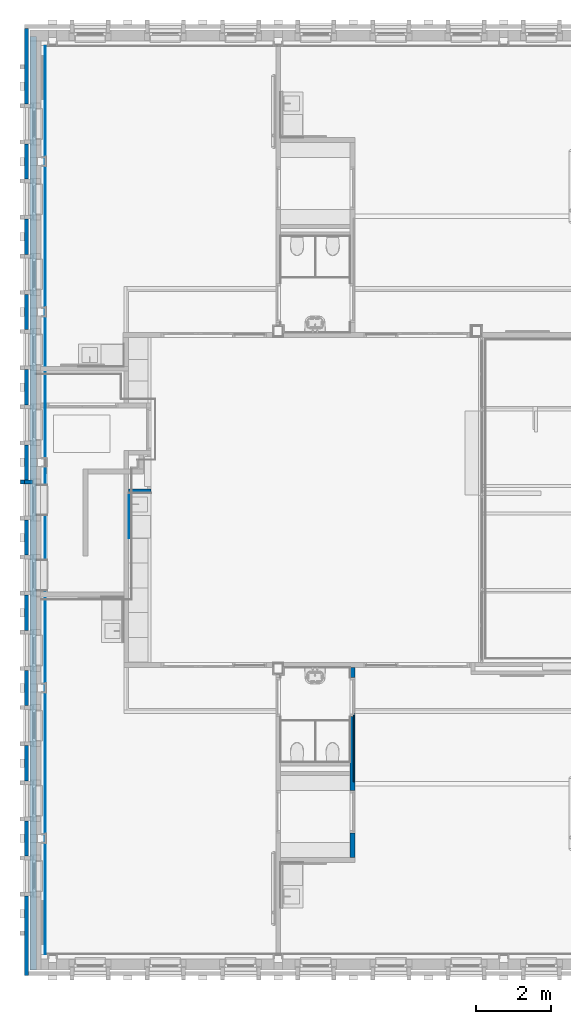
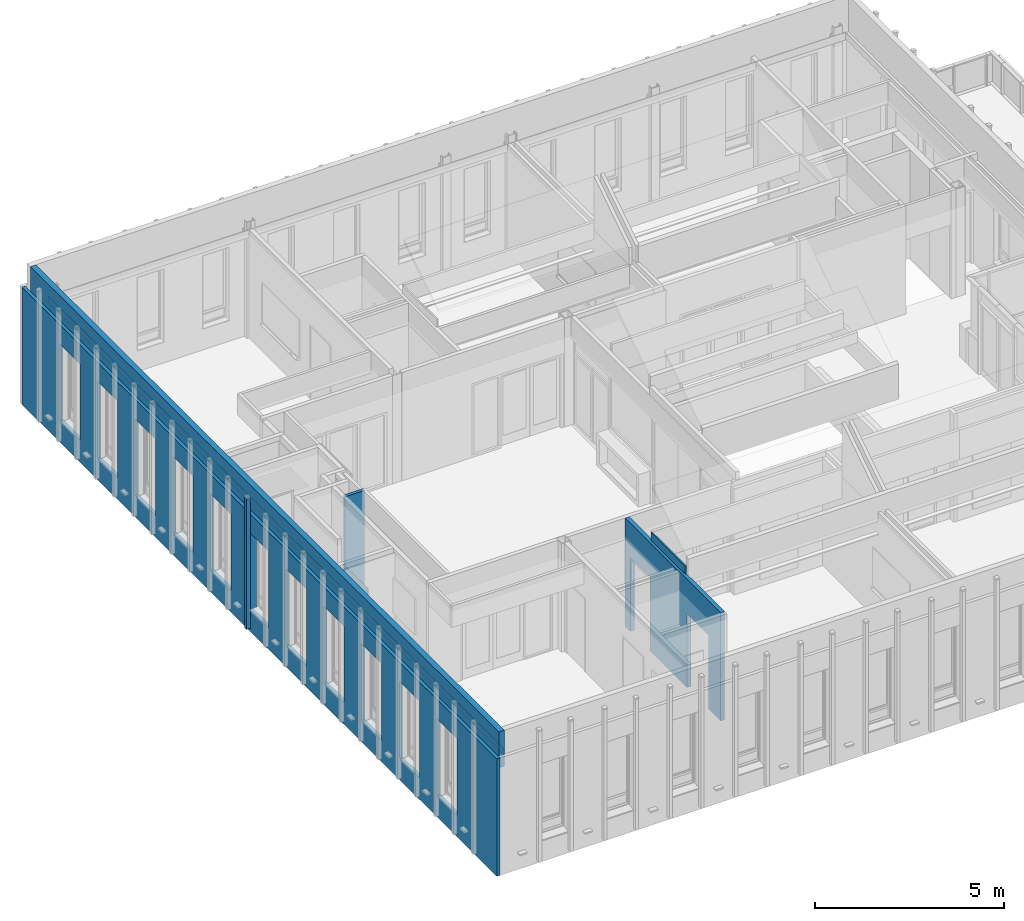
# One storey, part 36 of 118: 9 walls, 13 openings.
"""IFC2X3 building model written with IfcOpenShell, lengths in millimetres."""

import ifcopenshell
import ifcopenshell.guid

model = None  # the IFC model being written
_history = None  # IfcOwnerHistory: only IFC2X3 demands one
_inside = {}  # id of a spatial element -> (the spatial element, [elements in it])
_under = {}  # id of a project, library or spatial element -> (it, [spatial elements below it])
_declared = {}  # id of a project -> (the project, [libraries it declares])
_typed = {}  # id of a type object -> (the type object, [elements of that type])
_made_of = {}  # id of a material, layer set ... -> (it, [elements and type objects made of it])


def new_model(schema):
    """Start an empty IFC model of exactly this schema.

    Asked for "IFC4X3", IfcOpenShell would pick the latest addendum, in which some entities
    have other attributes; the version numbers below select the first issue.
    IFC2X3 requires an IfcOwnerHistory on every rooted entity: one is made here for all.
    """
    global model, _history
    if schema == "IFC4X3":
        model = ifcopenshell.file(schema_version=(4, 3, 0, 0))
    else:
        model = ifcopenshell.file(schema=schema)
    _inside.clear()
    _under.clear()
    _declared.clear()
    _typed.clear()
    _made_of.clear()
    _history = None
    if model.schema == "IFC2X3":
        org = make("IfcOrganization", Name="unknown")
        user = make(
            "IfcPersonAndOrganization",
            ThePerson=make("IfcPerson", FamilyName="unknown"),
            TheOrganization=org,
        )
        app = make(
            "IfcApplication",
            ApplicationDeveloper=org,
            Version="unknown",
            ApplicationFullName="unknown",
            ApplicationIdentifier="unknown",
        )
        _history = make(
            "IfcOwnerHistory",
            OwningUser=user,
            OwningApplication=app,
            ChangeAction="ADDED",
            CreationDate=0,
        )
    return model


def make(cls, **values):
    """One entity of the class cls with the attributes given. An attribute that is None is left unset."""
    return model.create_entity(
        cls, **{name: value for name, value in values.items() if value is not None}
    )


def entity(cls, *values):
    """Any entity or typed value of the class cls, its attributes in the order of the schema. None: left unset."""
    e = model.create_entity(cls)
    for i, value in enumerate(values):
        if value is not None:
            e[i] = value
    return e


def rooted(cls, **values):
    """An entity with a GlobalId (a new one), such as an element, a storey or a relation."""
    return make(cls, GlobalId=ifcopenshell.guid.new(), OwnerHistory=_history, **values)


def si_unit(unit_type, name, prefix=None):
    """IfcSIUnit, for example si_unit("LENGTHUNIT", "METRE", prefix="MILLI")."""
    return make("IfcSIUnit", UnitType=unit_type, Prefix=prefix, Name=name)


def converted_unit(unit_type, name, factor, base, dimensions=None, offset=None):
    """IfcConversionBasedUnit, such as the inch: factor (a typed value) times the base unit."""
    return make(
        "IfcConversionBasedUnit"
        if offset is None
        else "IfcConversionBasedUnitWithOffset",
        ConversionOffset=offset,
        Dimensions=None
        if dimensions is None
        else entity("IfcDimensionalExponents", *dimensions),
        UnitType=unit_type,
        Name=name,
        ConversionFactor=make(
            "IfcMeasureWithUnit", ValueComponent=factor, UnitComponent=base
        ),
    )


def derived_unit(unit_type, elements):
    """IfcDerivedUnit: a product of units, each with its exponent."""
    return make(
        "IfcDerivedUnit",
        Elements=[
            make("IfcDerivedUnitElement", Unit=unit, Exponent=power)
            for unit, power in elements
        ],
        UnitType=unit_type,
    )


def assignment(units):
    """IfcUnitAssignment: the units of a project."""
    return None if units is None else make("IfcUnitAssignment", Units=units)


def point(xyz):
    """IfcCartesianPoint."""
    return None if xyz is None else make("IfcCartesianPoint", Coordinates=xyz)


def direction(xyz):
    """IfcDirection."""
    return None if xyz is None else make("IfcDirection", DirectionRatios=xyz)


def frame(location, z_axis=None, x_axis=None):
    """IfcAxis2Placement3D, a coordinate frame: its origin and axes. An axis left out is left unset."""
    return make(
        "IfcAxis2Placement3D",
        Location=point(location),
        Axis=direction(z_axis),
        RefDirection=direction(x_axis),
    )


def frame_2d(location, x_axis=None):
    """IfcAxis2Placement2D, a coordinate frame in the plane: its origin and x axis."""
    return make(
        "IfcAxis2Placement2D", Location=point(location), RefDirection=direction(x_axis)
    )


def origin():
    """The frame at (0, 0, 0) with its axes left unset."""
    return frame((0.0, 0.0, 0.0))


def place(relative_to, where):
    """IfcLocalPlacement: puts the frame where relative to a parent placement (None: the world)."""
    return make(
        "IfcLocalPlacement", PlacementRelTo=relative_to, RelativePlacement=where
    )


def context(
    kind, dimensions, precision=None, world=None, true_north=None, identifier=None
):
    """IfcGeometricRepresentationContext, for example the 3D "Model" context."""
    return make(
        "IfcGeometricRepresentationContext",
        ContextIdentifier=identifier,
        ContextType=kind,
        CoordinateSpaceDimension=dimensions,
        Precision=precision,
        WorldCoordinateSystem=world,
        TrueNorth=true_north,
    )


def subcontext(parent, identifier, kind, view, scale=None):
    """IfcGeometricRepresentationSubContext, for example "Body" below "Model"."""
    return make(
        "IfcGeometricRepresentationSubContext",
        ContextIdentifier=identifier,
        ContextType=kind,
        ParentContext=parent,
        TargetScale=scale,
        TargetView=view,
    )


def project(units=None, contexts=None):
    """IfcProject with its units and contexts."""
    return rooted(
        "IfcProject",
        Name="project",
        RepresentationContexts=contexts,
        UnitsInContext=assignment(units),
    )


def spatial(cls, under=None, at=None, **own):
    """A site, building, storey or space (cls), placed at a placement, below another one or the project."""
    s = rooted(cls, ObjectPlacement=at, **own)
    if under is not None:
        _under.setdefault(under.id(), (under, []))[1].append(s)
    return s


def profile(cls, at=None, kind="AREA", **sizes):
    """A parametric profile (cls). Its sizes go by their IFC names, for example OverallWidth=200.0."""
    return make(cls, ProfileType=kind, Position=at, **sizes)


def rectangle(**sizes):
    """IfcRectangleProfileDef."""
    return profile("IfcRectangleProfileDef", **sizes)


def extrude(swept, where, along, depth):
    """IfcExtrudedAreaSolid: the profile swept, set in the frame where, extruded along a direction by depth."""
    return make(
        "IfcExtrudedAreaSolid",
        SweptArea=swept,
        Position=where,
        ExtrudedDirection=direction(along),
        Depth=depth,
    )


def faces_of(points, faces, orient=None, outer=None):
    """IfcFace entities. A face is a list of loops; a loop is a list of indices into points, from 0.

    orient and outer hold one flag for each loop. By default every Orientation is true, the
    first loop of a face is its IfcFaceOuterBound and the others are IfcFaceBound.
    """
    made = []
    for i, loops in enumerate(faces):
        bounds = []
        for j, loop in enumerate(loops):
            is_outer = j == 0 if outer is None else outer[i][j]
            bounds.append(
                make(
                    "IfcFaceOuterBound" if is_outer else "IfcFaceBound",
                    Bound=make("IfcPolyLoop", Polygon=[points[k] for k in loop]),
                    Orientation=True if orient is None else orient[i][j],
                )
            )
        made.append(make("IfcFace", Bounds=bounds))
    return made


def faceted_brep(points, faces, orient=None, outer=None, voids=None):
    """IfcFacetedBrep: a solid bounded by flat faces; with voids (closed shells), ...WithVoids."""
    shared = [point(p) for p in points]
    hull = make("IfcClosedShell", CfsFaces=faces_of(shared, faces, orient, outer))
    if voids is None:
        return make("IfcFacetedBrep", Outer=hull)
    return make(
        "IfcFacetedBrepWithVoids",
        Outer=hull,
        Voids=[
            make(cls, CfsFaces=faces_of(shared, fs, o, b)) for cls, fs, o, b in voids
        ],
    )


def shape(context_of_items, identifier, shape_type, items):
    """IfcShapeRepresentation: the items that make up one representation, for example the "Body"."""
    return make(
        "IfcShapeRepresentation",
        ContextOfItems=context_of_items,
        RepresentationIdentifier=identifier,
        RepresentationType=shape_type,
        Items=items,
    )


def material(Name=None, Category=None):
    """IfcMaterial."""
    return make("IfcMaterial", Name=Name, Category=Category)


def layer(
    of_material, thickness, ventilated=None, Name=None, Category=None, Priority=None
):
    """IfcMaterialLayer: one layer of a wall or slab, of a material (None: an air gap)."""
    return make(
        "IfcMaterialLayer",
        Material=of_material,
        LayerThickness=thickness,
        IsVentilated=ventilated,
        Name=Name,
        Category=Category,
        Priority=Priority,
    )


def layer_set(layers, Name=None):
    """IfcMaterialLayerSet."""
    return make("IfcMaterialLayerSet", MaterialLayers=layers, LayerSetName=Name)


def layer_usage(for_layer_set, set_direction, sense, offset, extent=None):
    """IfcMaterialLayerSetUsage: how a layer set lies in its element."""
    return make(
        "IfcMaterialLayerSetUsage",
        ForLayerSet=for_layer_set,
        LayerSetDirection=set_direction,
        DirectionSense=sense,
        OffsetFromReferenceLine=offset,
        ReferenceExtent=extent,
    )


def made_of(thing, what):
    """Note that an element or type object is made of a material, layer set ...; save() writes the relation."""
    if what is not None:
        _made_of.setdefault(what.id(), (what, []))[1].append(thing)
    return thing


def type_object(cls, material=None, **own):
    """A type object (cls), such as IfcWallType, which elements share."""
    return made_of(rooted(cls, **own), material)


def element(
    cls,
    number,
    at=None,
    inside=None,
    cuts=None,
    type_object=None,
    material=None,
    context=None,
    identifier="Body",
    shape_type=None,
    held_by="IfcProductDefinitionShape",
    body=None,
    shapes=None,
    **own,
):
    """One element of the class cls, such as IfcWall. Its Tag is "e" and its number.

    at: its placement. inside: the storey or other place that contains it. cuts: it is an
    opening in that element (IfcRelVoidsElement). A single representation is given by context,
    identifier, shape_type and body (its items); several are given by shapes. held_by: the class
    of the entity that holds the representations. save() writes the other relations.
    """
    e = rooted(cls, Tag="e%d" % number, ObjectPlacement=at, **own)
    if body is not None:
        shapes = [shape(context, identifier, shape_type, body)]
    if shapes is not None:
        e.Representation = make(held_by, Representations=shapes)
    if inside is not None:
        _inside.setdefault(inside.id(), (inside, []))[1].append(e)
    if cuts is not None:
        rooted(
            "IfcRelVoidsElement", RelatingBuildingElement=cuts, RelatedOpeningElement=e
        )
    if type_object is not None:
        _typed.setdefault(type_object.id(), (type_object, []))[1].append(e)
    return made_of(e, material)


def aggregate(whole, parts):
    """IfcRelAggregates: a whole, such as a stair, and the parts it consists of."""
    return rooted("IfcRelAggregates", RelatingObject=whole, RelatedObjects=parts)


def save(model, path):
    """Write the relations noted so far, then the file.

    IfcRelAggregates (storeys below a building ...), IfcRelContainedInSpatialStructure (elements
    in a storey), IfcRelDefinesByType, IfcRelAssociatesMaterial and IfcRelDeclares: one each for
    every whole, place, type object, material and project.
    """
    for whole, parts in _under.values():
        aggregate(whole, parts)
    for where, things in _inside.values():
        rooted(
            "IfcRelContainedInSpatialStructure",
            RelatedElements=things,
            RelatingStructure=where,
        )
    for kind, things in _typed.values():
        rooted("IfcRelDefinesByType", RelatedObjects=things, RelatingType=kind)
    for what, things in _made_of.values():
        rooted("IfcRelAssociatesMaterial", RelatedObjects=things, RelatingMaterial=what)
    for by, libraries in _declared.values():
        rooted("IfcRelDeclares", RelatingContext=by, RelatedDefinitions=libraries)
    model.write(path)


model = new_model("IFC2X3")

# Units and contexts
model_context = context("Model", 3, precision=0.01, world=origin(), true_north=direction((6.123031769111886e-17, 1.0)))
plan_context = context("Plan", 3, precision=0.01, world=origin(), true_north=direction((6.123031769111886e-17, 1.0)))
body_context = subcontext(model_context, "Body", "Model", "MODEL_VIEW")
ifc_project = project(units=[si_unit("LENGTHUNIT", "METRE", prefix="MILLI"), si_unit("AREAUNIT", "SQUARE_METRE"), si_unit("VOLUMEUNIT", "CUBIC_METRE"), converted_unit("PLANEANGLEUNIT", "DEGREE", entity("IfcRatioMeasure", 0.017453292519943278), si_unit("PLANEANGLEUNIT", "RADIAN"), dimensions=[0, 0, 0, 0, 0, 0, 0]), si_unit("MASSUNIT", "GRAM", prefix="KILO"), derived_unit("MASSDENSITYUNIT", [(si_unit("MASSUNIT", "GRAM", prefix="KILO"), 1), (si_unit("LENGTHUNIT", "METRE"), -3)]), derived_unit("IONCONCENTRATIONUNIT", [(si_unit("MASSUNIT", "GRAM", prefix="KILO"), 1), (si_unit("LENGTHUNIT", "METRE"), -3)]), derived_unit("MOMENTOFINERTIAUNIT", [(si_unit("LENGTHUNIT", "METRE"), 4)]), si_unit("TIMEUNIT", "SECOND"), si_unit("FREQUENCYUNIT", "HERTZ"), si_unit("THERMODYNAMICTEMPERATUREUNIT", "DEGREE_CELSIUS"), derived_unit("THERMALTRANSMITTANCEUNIT", [(si_unit("MASSUNIT", "GRAM", prefix="KILO"), 1), (si_unit("THERMODYNAMICTEMPERATUREUNIT", "KELVIN"), -1), (si_unit("TIMEUNIT", "SECOND"), -3)]), derived_unit("THERMALCONDUCTANCEUNIT", [(si_unit("MASSUNIT", "GRAM", prefix="KILO"), 1), (si_unit("THERMODYNAMICTEMPERATUREUNIT", "KELVIN"), -1), (si_unit("TIMEUNIT", "SECOND"), -3), (si_unit("LENGTHUNIT", "METRE"), 1)]), derived_unit("VOLUMETRICFLOWRATEUNIT", [(si_unit("LENGTHUNIT", "METRE"), 3), (si_unit("TIMEUNIT", "SECOND"), -1)]), derived_unit("MASSFLOWRATEUNIT", [(si_unit("MASSUNIT", "GRAM", prefix="KILO"), 1), (si_unit("TIMEUNIT", "SECOND"), -1)]), derived_unit("ROTATIONALFREQUENCYUNIT", [(si_unit("TIMEUNIT", "SECOND"), -1)]), si_unit("ELECTRICCURRENTUNIT", "AMPERE"), si_unit("ELECTRICVOLTAGEUNIT", "VOLT"), si_unit("POWERUNIT", "WATT"), si_unit("FORCEUNIT", "NEWTON", prefix="KILO"), si_unit("ILLUMINANCEUNIT", "LUX"), si_unit("LUMINOUSFLUXUNIT", "LUMEN"), si_unit("LUMINOUSINTENSITYUNIT", "CANDELA"), derived_unit("USERDEFINED", [(si_unit("MASSUNIT", "GRAM", prefix="KILO"), -1), (si_unit("LENGTHUNIT", "METRE"), -2), (si_unit("TIMEUNIT", "SECOND"), 3), (si_unit("LUMINOUSFLUXUNIT", "LUMEN"), 1)]), derived_unit("USERDEFINED", [(si_unit("MASSUNIT", "GRAM", prefix="KILO"), 1), (si_unit("TIMEUNIT", "SECOND"), -3), (si_unit("LENGTHUNIT", "METRE"), 3), (si_unit("ELECTRICCURRENTUNIT", "AMPERE"), -2)]), derived_unit("SOUNDPOWERUNIT", [(si_unit("MASSUNIT", "GRAM", prefix="KILO"), 1), (si_unit("TIMEUNIT", "SECOND"), -3), (si_unit("LENGTHUNIT", "METRE"), 2)]), derived_unit("SOUNDPRESSUREUNIT", [(si_unit("MASSUNIT", "GRAM", prefix="KILO"), 1), (si_unit("LENGTHUNIT", "METRE"), -1), (si_unit("TIMEUNIT", "SECOND"), -2)]), derived_unit("LINEARVELOCITYUNIT", [(si_unit("LENGTHUNIT", "METRE"), 1), (si_unit("TIMEUNIT", "SECOND"), -1)]), si_unit("PRESSUREUNIT", "PASCAL"), derived_unit("USERDEFINED", [(si_unit("MASSUNIT", "GRAM", prefix="KILO"), 1), (si_unit("LENGTHUNIT", "METRE"), -2), (si_unit("TIMEUNIT", "SECOND"), -2)]), derived_unit("LINEARFORCEUNIT", [(si_unit("MASSUNIT", "GRAM", prefix="KILO"), 1), (si_unit("TIMEUNIT", "SECOND"), -2)]), derived_unit("PLANARFORCEUNIT", [(si_unit("MASSUNIT", "GRAM", prefix="KILO"), 1), (si_unit("LENGTHUNIT", "METRE"), -1), (si_unit("TIMEUNIT", "SECOND"), -2)]), derived_unit("SPECIFICHEATCAPACITYUNIT", [(si_unit("THERMODYNAMICTEMPERATUREUNIT", "KELVIN"), -1), (si_unit("LENGTHUNIT", "METRE"), 2), (si_unit("TIMEUNIT", "SECOND"), -2)]), derived_unit("HEATINGVALUEUNIT", [(si_unit("LENGTHUNIT", "METRE"), 2), (si_unit("TIMEUNIT", "SECOND"), -2)]), derived_unit("VAPORPERMEABILITYUNIT", [(si_unit("LENGTHUNIT", "METRE"), -1), (si_unit("TIMEUNIT", "SECOND"), 1)]), derived_unit("DYNAMICVISCOSITYUNIT", [(si_unit("MASSUNIT", "GRAM", prefix="KILO"), 1), (si_unit("TIMEUNIT", "SECOND"), -1), (si_unit("LENGTHUNIT", "METRE"), -1)]), derived_unit("THERMALEXPANSIONCOEFFICIENTUNIT", [(si_unit("THERMODYNAMICTEMPERATUREUNIT", "KELVIN"), -1)]), derived_unit("MODULUSOFELASTICITYUNIT", [(si_unit("MASSUNIT", "GRAM", prefix="KILO"), 1), (si_unit("LENGTHUNIT", "METRE"), -1), (si_unit("TIMEUNIT", "SECOND"), -2)]), derived_unit("ISOTHERMALMOISTURECAPACITYUNIT", [(si_unit("LENGTHUNIT", "METRE"), 3), (si_unit("MASSUNIT", "GRAM", prefix="KILO"), -1)]), derived_unit("MOISTUREDIFFUSIVITYUNIT", [(si_unit("TIMEUNIT", "SECOND"), -1), (si_unit("LENGTHUNIT", "METRE"), 2)])], contexts=[model_context, plan_context])

# Site, building, storey
site_placement = place(None, origin())
site = spatial("IfcSite", under=ifc_project, at=site_placement, Name="Locatie", CompositionType="ELEMENT")
building_placement = place(site_placement, origin())
building = spatial("IfcBuilding", under=site, at=building_placement, Name="Bouwwerk", CompositionType="ELEMENT")
storey_placement = place(building_placement, frame((0.0, 0.0, 7800.0)))
storey = spatial("IfcBuildingStorey", under=building, at=storey_placement, Name="02 tweede verdieping", CompositionType="ELEMENT", Elevation=7800.000000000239)

# Wall, openings
ifc_material_1 = material(Name="g2_metselwerk_geel licht")
ifc_layer_1 = layer(ifc_material_1, 100.0)
ifc_layer_set_1 = layer_set([ifc_layer_1], Name="Basic Wall:21_WA_metselwerk_licht_100_gen_bdg")
ifc_layer_usage_1 = layer_usage(ifc_layer_set_1, "AXIS2", "NEGATIVE", 50.0)
wall_type_1 = type_object("IfcWallType", Name="Basic Wall:21_WA_metselwerk_licht_100_gen_bdg", PredefinedType="STANDARD", material=ifc_layer_set_1)
wall_1_placement = place(storey_placement, frame((9610.0, 9560.0, -100.0), z_axis=(0.0, 0.0, 1.0), x_axis=(0.0, 1.0, 0.0)))
wall_1 = element("IfcWallStandardCase", 1, at=wall_1_placement, inside=storey, type_object=wall_type_1, material=ifc_layer_usage_1, Name="Basic Wall:21_WA_metselwerk_licht_100_gen_bdg", ObjectType="Basic Wall:21_WA_metselwerk_licht_100_gen_bdg", context=body_context, shape_type="SweptSolid", body=[
    extrude(rectangle(XDim=25179.999999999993, YDim=100.0000000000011, at=frame_2d((12589.999999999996, 0.0), x_axis=(-1.0, 0.0))), origin(), (0.0, 0.0, 1.0), 3800.000000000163),
])
opening_1_placement = place(wall_1_placement, frame((14084.0, 50.0, 703.0)))
element("IfcOpeningElement", 2, at=opening_1_placement, cuts=wall_1, Name="Basic Wall:21_WA_metselwerk_licht_100_gen_bdg", ObjectType="Opening", context=body_context, shape_type="Brep", body=[
    faceted_brep([(1088.0, -100.0, 2472.0), (1009.0, -100.0, 2472.0), (1009.0, -100.0, 42.0), (103.0, -100.0, 42.0), (103.0, -100.0, 2472.0), (24.0, -100.0, 2472.0), (24.0, -100.0, 0.0), (1088.0, -100.0, 0.0), (24.0, 0.0, 2472.0), (1088.0, 0.0, 2472.0), (1088.0, 0.0, 0.0), (24.0, 0.0, 0.0), (0.0, -415.0, 2594.0), (0.0, -415.0, 11.0), (1112.0, -415.0, 11.0), (1112.0, -415.0, 2594.0), (148.0, -415.0, 2443.0), (964.0, -415.0, 2443.0), (964.0, -415.0, 87.0), (148.0, -415.0, 87.0), (0.0, -140.0, 2594.0), (1112.0, -140.0, 2594.0), (1112.0, -140.0, 11.0), (0.0, -140.0, 11.0), (103.0, -140.0, 42.0), (1009.0, -140.0, 42.0), (1009.0, -140.0, 2508.0), (103.0, -140.0, 2508.0), (1009.0, -100.0, 2508.0), (103.0, -100.0, 2508.0), (148.0, -615.0, 2443.0), (148.0, -615.0, 87.0), (964.0, -615.0, 87.0), (964.0, -615.0, 2443.0)], [[[0, 1, 2, 3, 4, 5, 6, 7]], [[8, 9, 10, 11]], [[5, 8, 11, 6]], [[6, 11, 10, 7]], [[7, 10, 9, 0]], [[8, 5, 4, 1, 0, 9]], [[12, 13, 14, 15], [16, 17, 18, 19]], [[20, 21, 22, 23], [24, 25, 26, 27]], [[12, 20, 23, 13]], [[13, 23, 22, 14]], [[14, 22, 21, 15]], [[15, 21, 20, 12]], [[28, 1, 4, 29]], [[24, 27, 29, 4, 3]], [[3, 2, 25, 24]], [[2, 1, 28, 26, 25]], [[29, 27, 26, 28]], [[30, 31, 32, 33]], [[30, 16, 19, 31]], [[31, 19, 18, 32]], [[32, 18, 17, 33]], [[33, 17, 16, 30]]]),
])
opening_2_placement = place(wall_1_placement, frame((2084.0, 50.0, 703.0)))
element("IfcOpeningElement", 3, at=opening_2_placement, cuts=wall_1, Name="Basic Wall:21_WA_metselwerk_licht_100_gen_bdg", ObjectType="Opening", context=body_context, shape_type="Brep", body=[
    faceted_brep([(1088.0, -100.0, 2472.0), (1009.0, -100.0, 2472.0), (1009.0, -100.0, 42.0), (103.0, -100.0, 42.0), (103.0, -100.0, 2472.0), (24.0, -100.0, 2472.0), (24.0, -100.0, 0.0), (1088.0, -100.0, 0.0), (24.0, 0.0, 2472.0), (1088.0, 0.0, 2472.0), (1088.0, 0.0, 0.0), (24.0, 0.0, 0.0), (0.0, -415.0, 2594.0), (0.0, -415.0, 11.0), (1112.0, -415.0, 11.0), (1112.0, -415.0, 2594.0), (148.0, -415.0, 2443.0), (964.0, -415.0, 2443.0), (964.0, -415.0, 87.0), (148.0, -415.0, 87.0), (0.0, -140.0, 2594.0), (1112.0, -140.0, 2594.0), (1112.0, -140.0, 11.0), (0.0, -140.0, 11.0), (103.0, -140.0, 42.0), (1009.0, -140.0, 42.0), (1009.0, -140.0, 2508.0), (103.0, -140.0, 2508.0), (1009.0, -100.0, 2508.0), (103.0, -100.0, 2508.0), (148.0, -615.0, 2443.0), (148.0, -615.0, 87.0), (964.0, -615.0, 87.0), (964.0, -615.0, 2443.0)], [[[0, 1, 2, 3, 4, 5, 6, 7]], [[8, 9, 10, 11]], [[5, 8, 11, 6]], [[6, 11, 10, 7]], [[7, 10, 9, 0]], [[8, 5, 4, 1, 0, 9]], [[12, 13, 14, 15], [16, 17, 18, 19]], [[20, 21, 22, 23], [24, 25, 26, 27]], [[12, 20, 23, 13]], [[13, 23, 22, 14]], [[14, 22, 21, 15]], [[15, 21, 20, 12]], [[28, 1, 4, 29]], [[24, 27, 29, 4, 3]], [[3, 2, 25, 24]], [[2, 1, 28, 26, 25]], [[29, 27, 26, 28]], [[30, 31, 32, 33]], [[30, 16, 19, 31]], [[31, 19, 18, 32]], [[32, 18, 17, 33]], [[33, 17, 16, 30]]]),
])
opening_3_placement = place(wall_1_placement, frame((4084.0, 50.0, 703.0)))
element("IfcOpeningElement", 4, at=opening_3_placement, cuts=wall_1, Name="Basic Wall:21_WA_metselwerk_licht_100_gen_bdg", ObjectType="Opening", context=body_context, shape_type="Brep", body=[
    faceted_brep([(1088.0, -100.0, 2472.0), (1009.0, -100.0, 2472.0), (1009.0, -100.0, 42.0), (103.0, -100.0, 42.0), (103.0, -100.0, 2472.0), (24.0, -100.0, 2472.0), (24.0, -100.0, 0.0), (1088.0, -100.0, 0.0), (24.0, 0.0, 2472.0), (1088.0, 0.0, 2472.0), (1088.0, 0.0, 0.0), (24.0, 0.0, 0.0), (0.0, -415.0, 2594.0), (0.0, -415.0, 11.0), (1112.0, -415.0, 11.0), (1112.0, -415.0, 2594.0), (148.0, -415.0, 2443.0), (964.0, -415.0, 2443.0), (964.0, -415.0, 87.0), (148.0, -415.0, 87.0), (0.0, -140.0, 2594.0), (1112.0, -140.0, 2594.0), (1112.0, -140.0, 11.0), (0.0, -140.0, 11.0), (103.0, -140.0, 42.0), (1009.0, -140.0, 42.0), (1009.0, -140.0, 2508.0), (103.0, -140.0, 2508.0), (1009.0, -100.0, 2508.0), (103.0, -100.0, 2508.0), (148.0, -615.0, 2443.0), (148.0, -615.0, 87.0), (964.0, -615.0, 87.0), (964.0, -615.0, 2443.0)], [[[0, 1, 2, 3, 4, 5, 6, 7]], [[8, 9, 10, 11]], [[5, 8, 11, 6]], [[6, 11, 10, 7]], [[7, 10, 9, 0]], [[8, 5, 4, 1, 0, 9]], [[12, 13, 14, 15], [16, 17, 18, 19]], [[20, 21, 22, 23], [24, 25, 26, 27]], [[12, 20, 23, 13]], [[13, 23, 22, 14]], [[14, 22, 21, 15]], [[15, 21, 20, 12]], [[28, 1, 4, 29]], [[24, 27, 29, 4, 3]], [[3, 2, 25, 24]], [[2, 1, 28, 26, 25]], [[29, 27, 26, 28]], [[30, 31, 32, 33]], [[30, 16, 19, 31]], [[31, 19, 18, 32]], [[32, 18, 17, 33]], [[33, 17, 16, 30]]]),
])
opening_4_placement = place(wall_1_placement, frame((6084.0, 50.0, 703.0)))
element("IfcOpeningElement", 5, at=opening_4_placement, cuts=wall_1, Name="Basic Wall:21_WA_metselwerk_licht_100_gen_bdg", ObjectType="Opening", context=body_context, shape_type="Brep", body=[
    faceted_brep([(1088.0, -100.0, 2472.0), (1009.0, -100.0, 2472.0), (1009.0, -100.0, 42.0), (103.0, -100.0, 42.0), (103.0, -100.0, 2472.0), (24.0, -100.0, 2472.0), (24.0, -100.0, 0.0), (1088.0, -100.0, 0.0), (24.0, 0.0, 2472.0), (1088.0, 0.0, 2472.0), (1088.0, 0.0, 0.0), (24.0, 0.0, 0.0), (0.0, -415.0, 2594.0), (0.0, -415.0, 11.0), (1112.0, -415.0, 11.0), (1112.0, -415.0, 2594.0), (148.0, -415.0, 2443.0), (964.0, -415.0, 2443.0), (964.0, -415.0, 87.0), (148.0, -415.0, 87.0), (0.0, -140.0, 2594.0), (1112.0, -140.0, 2594.0), (1112.0, -140.0, 11.0), (0.0, -140.0, 11.0), (103.0, -140.0, 42.0), (1009.0, -140.0, 42.0), (1009.0, -140.0, 2508.0), (103.0, -140.0, 2508.0), (1009.0, -100.0, 2508.0), (103.0, -100.0, 2508.0), (148.0, -615.0, 2443.0), (148.0, -615.0, 87.0), (964.0, -615.0, 87.0), (964.0, -615.0, 2443.0)], [[[0, 1, 2, 3, 4, 5, 6, 7]], [[8, 9, 10, 11]], [[5, 8, 11, 6]], [[6, 11, 10, 7]], [[7, 10, 9, 0]], [[8, 5, 4, 1, 0, 9]], [[12, 13, 14, 15], [16, 17, 18, 19]], [[20, 21, 22, 23], [24, 25, 26, 27]], [[12, 20, 23, 13]], [[13, 23, 22, 14]], [[14, 22, 21, 15]], [[15, 21, 20, 12]], [[28, 1, 4, 29]], [[24, 27, 29, 4, 3]], [[3, 2, 25, 24]], [[2, 1, 28, 26, 25]], [[29, 27, 26, 28]], [[30, 31, 32, 33]], [[30, 16, 19, 31]], [[31, 19, 18, 32]], [[32, 18, 17, 33]], [[33, 17, 16, 30]]]),
])
opening_5_placement = place(wall_1_placement, frame((8084.0, 50.0, 703.0)))
element("IfcOpeningElement", 6, at=opening_5_placement, cuts=wall_1, Name="Basic Wall:21_WA_metselwerk_licht_100_gen_bdg", ObjectType="Opening", context=body_context, shape_type="Brep", body=[
    faceted_brep([(1088.0, -100.0, 2472.0), (1009.0, -100.0, 2472.0), (1009.0, -100.0, 42.0), (103.0, -100.0, 42.0), (103.0, -100.0, 2472.0), (24.0, -100.0, 2472.0), (24.0, -100.0, 0.0), (1088.0, -100.0, 0.0), (24.0, 0.0, 2472.0), (1088.0, 0.0, 2472.0), (1088.0, 0.0, 0.0), (24.0, 0.0, 0.0), (0.0, -415.0, 2594.0), (0.0, -415.0, 11.0), (1112.0, -415.0, 11.0), (1112.0, -415.0, 2594.0), (148.0, -415.0, 2443.0), (964.0, -415.0, 2443.0), (964.0, -415.0, 87.0), (148.0, -415.0, 87.0), (0.0, -140.0, 2594.0), (1112.0, -140.0, 2594.0), (1112.0, -140.0, 11.0), (0.0, -140.0, 11.0), (103.0, -140.0, 42.0), (1009.0, -140.0, 42.0), (1009.0, -140.0, 2508.0), (103.0, -140.0, 2508.0), (1009.0, -100.0, 2508.0), (103.0, -100.0, 2508.0), (148.0, -615.0, 2443.0), (148.0, -615.0, 87.0), (964.0, -615.0, 87.0), (964.0, -615.0, 2443.0)], [[[0, 1, 2, 3, 4, 5, 6, 7]], [[8, 9, 10, 11]], [[5, 8, 11, 6]], [[6, 11, 10, 7]], [[7, 10, 9, 0]], [[8, 5, 4, 1, 0, 9]], [[12, 13, 14, 15], [16, 17, 18, 19]], [[20, 21, 22, 23], [24, 25, 26, 27]], [[12, 20, 23, 13]], [[13, 23, 22, 14]], [[14, 22, 21, 15]], [[15, 21, 20, 12]], [[28, 1, 4, 29]], [[24, 27, 29, 4, 3]], [[3, 2, 25, 24]], [[2, 1, 28, 26, 25]], [[29, 27, 26, 28]], [[30, 31, 32, 33]], [[30, 16, 19, 31]], [[31, 19, 18, 32]], [[32, 18, 17, 33]], [[33, 17, 16, 30]]]),
])
opening_6_placement = place(wall_1_placement, frame((10084.0, 50.0, 703.0)))
element("IfcOpeningElement", 7, at=opening_6_placement, cuts=wall_1, Name="Basic Wall:21_WA_metselwerk_licht_100_gen_bdg", ObjectType="Opening", context=body_context, shape_type="Brep", body=[
    faceted_brep([(24.0, -100.0, 0.0), (24.0, 0.0, 0.0), (1088.0, 0.0, 0.0), (1088.0, -100.0, 0.0), (0.0, -415.0, 11.0), (0.0, -140.0, 11.0), (1112.0, -140.0, 11.0), (1112.0, -415.0, 11.0), (103.0, -100.0, 42.0), (1009.0, -100.0, 42.0), (1009.0, -140.0, 42.0), (103.0, -140.0, 42.0), (1088.0, -100.0, 2472.0), (1009.0, -100.0, 2472.0), (103.0, -100.0, 2472.0), (24.0, -100.0, 2472.0), (24.0, 0.0, 2472.0), (1088.0, 0.0, 2472.0), (0.0, -415.0, 2594.0), (1112.0, -415.0, 2594.0), (148.0, -415.0, 2443.0), (964.0, -415.0, 2443.0), (964.0, -415.0, 87.0), (148.0, -415.0, 87.0), (0.0, -140.0, 2594.0), (1112.0, -140.0, 2594.0), (1009.0, -140.0, 2508.0), (103.0, -140.0, 2508.0), (1009.0, -100.0, 2508.0), (103.0, -100.0, 2508.0), (148.0, -615.0, 2443.0), (148.0, -615.0, 87.0), (964.0, -615.0, 87.0), (964.0, -615.0, 2443.0)], [[[0, 1, 2, 3]], [[4, 5, 6, 7]], [[8, 9, 10, 11]], [[12, 13, 9, 8, 14, 15, 0, 3]], [[16, 17, 2, 1]], [[15, 16, 1, 0]], [[3, 2, 17, 12]], [[16, 15, 14, 13, 12, 17]], [[18, 4, 7, 19], [20, 21, 22, 23]], [[24, 25, 6, 5], [11, 10, 26, 27]], [[18, 24, 5, 4]], [[7, 6, 25, 19]], [[19, 25, 24, 18]], [[28, 13, 14, 29]], [[11, 27, 29, 14, 8]], [[9, 13, 28, 26, 10]], [[29, 27, 26, 28]], [[30, 31, 32, 33]], [[30, 20, 23, 31]], [[31, 23, 22, 32]], [[32, 22, 21, 33]], [[33, 21, 20, 30]]]),
])
opening_7_placement = place(wall_1_placement, frame((12084.0, 50.0, 703.0)))
element("IfcOpeningElement", 8, at=opening_7_placement, cuts=wall_1, Name="Basic Wall:21_WA_metselwerk_licht_100_gen_bdg", ObjectType="Opening", context=body_context, shape_type="Brep", body=[
    faceted_brep([(24.0, -100.0, 0.0), (24.0, 0.0, 0.0), (1088.0, 0.0, 0.0), (1088.0, -100.0, 0.0), (0.0, -415.0, 11.0), (0.0, -140.0, 11.0), (1112.0, -140.0, 11.0), (1112.0, -415.0, 11.0), (103.0, -100.0, 42.0), (1009.0, -100.0, 42.0), (1009.0, -140.0, 42.0), (103.0, -140.0, 42.0), (1088.0, -100.0, 2472.0), (1009.0, -100.0, 2472.0), (103.0, -100.0, 2472.0), (24.0, -100.0, 2472.0), (24.0, 0.0, 2472.0), (1088.0, 0.0, 2472.0), (0.0, -415.0, 2594.0), (1112.0, -415.0, 2594.0), (148.0, -415.0, 2443.0), (964.0, -415.0, 2443.0), (964.0, -415.0, 87.0), (148.0, -415.0, 87.0), (0.0, -140.0, 2594.0), (1112.0, -140.0, 2594.0), (1009.0, -140.0, 2508.0), (103.0, -140.0, 2508.0), (1009.0, -100.0, 2508.0), (103.0, -100.0, 2508.0), (148.0, -615.0, 2443.0), (148.0, -615.0, 87.0), (964.0, -615.0, 87.0), (964.0, -615.0, 2443.0)], [[[0, 1, 2, 3]], [[4, 5, 6, 7]], [[8, 9, 10, 11]], [[12, 13, 9, 8, 14, 15, 0, 3]], [[16, 17, 2, 1]], [[15, 16, 1, 0]], [[3, 2, 17, 12]], [[16, 15, 14, 13, 12, 17]], [[18, 4, 7, 19], [20, 21, 22, 23]], [[24, 25, 6, 5], [11, 10, 26, 27]], [[18, 24, 5, 4]], [[7, 6, 25, 19]], [[19, 25, 24, 18]], [[28, 13, 14, 29]], [[11, 27, 29, 14, 8]], [[9, 13, 28, 26, 10]], [[29, 27, 26, 28]], [[30, 31, 32, 33]], [[30, 20, 23, 31]], [[31, 23, 22, 32]], [[32, 22, 21, 33]], [[33, 21, 20, 30]]]),
])
opening_8_placement = place(wall_1_placement, frame((16084.0, 50.0, 703.0)))
element("IfcOpeningElement", 9, at=opening_8_placement, cuts=wall_1, Name="Basic Wall:21_WA_metselwerk_licht_100_gen_bdg", ObjectType="Opening", context=body_context, shape_type="Brep", body=[
    faceted_brep([(1088.0, -100.0, 2472.0), (1009.0, -100.0, 2472.0), (1009.0, -100.0, 42.0), (103.0, -100.0, 42.0), (103.0, -100.0, 2472.0), (24.0, -100.0, 2472.0), (24.0, -100.0, 0.0), (1088.0, -100.0, 0.0), (24.0, 0.0, 2472.0), (1088.0, 0.0, 2472.0), (1088.0, 0.0, 0.0), (24.0, 0.0, 0.0), (0.0, -415.0, 2594.0), (0.0, -415.0, 11.0), (1112.0, -415.0, 11.0), (1112.0, -415.0, 2594.0), (148.0, -415.0, 2443.0), (964.0, -415.0, 2443.0), (964.0, -415.0, 87.0), (148.0, -415.0, 87.0), (0.0, -140.0, 2594.0), (1112.0, -140.0, 2594.0), (1112.0, -140.0, 11.0), (0.0, -140.0, 11.0), (103.0, -140.0, 42.0), (1009.0, -140.0, 42.0), (1009.0, -140.0, 2508.0), (103.0, -140.0, 2508.0), (1009.0, -100.0, 2508.0), (103.0, -100.0, 2508.0), (148.0, -615.0, 2443.0), (148.0, -615.0, 87.0), (964.0, -615.0, 87.0), (964.0, -615.0, 2443.0)], [[[0, 1, 2, 3, 4, 5, 6, 7]], [[8, 9, 10, 11]], [[5, 8, 11, 6]], [[6, 11, 10, 7]], [[7, 10, 9, 0]], [[8, 5, 4, 1, 0, 9]], [[12, 13, 14, 15], [16, 17, 18, 19]], [[20, 21, 22, 23], [24, 25, 26, 27]], [[12, 20, 23, 13]], [[13, 23, 22, 14]], [[14, 22, 21, 15]], [[15, 21, 20, 12]], [[28, 1, 4, 29]], [[24, 27, 29, 4, 3]], [[3, 2, 25, 24]], [[2, 1, 28, 26, 25]], [[29, 27, 26, 28]], [[30, 31, 32, 33]], [[30, 16, 19, 31]], [[31, 19, 18, 32]], [[32, 18, 17, 33]], [[33, 17, 16, 30]]]),
])
opening_9_placement = place(wall_1_placement, frame((18084.0, 50.0, 703.0)))
element("IfcOpeningElement", 10, at=opening_9_placement, cuts=wall_1, Name="Basic Wall:21_WA_metselwerk_licht_100_gen_bdg", ObjectType="Opening", context=body_context, shape_type="Brep", body=[
    faceted_brep([(1088.0, -100.0, 2472.0), (1009.0, -100.0, 2472.0), (1009.0, -100.0, 42.0), (103.0, -100.0, 42.0), (103.0, -100.0, 2472.0), (24.0, -100.0, 2472.0), (24.0, -100.0, 0.0), (1088.0, -100.0, 0.0), (24.0, 0.0, 2472.0), (1088.0, 0.0, 2472.0), (1088.0, 0.0, 0.0), (24.0, 0.0, 0.0), (0.0, -415.0, 2594.0), (0.0, -415.0, 11.0), (1112.0, -415.0, 11.0), (1112.0, -415.0, 2594.0), (148.0, -415.0, 2443.0), (964.0, -415.0, 2443.0), (964.0, -415.0, 87.0), (148.0, -415.0, 87.0), (0.0, -140.0, 2594.0), (1112.0, -140.0, 2594.0), (1112.0, -140.0, 11.0), (0.0, -140.0, 11.0), (103.0, -140.0, 42.0), (1009.0, -140.0, 42.0), (1009.0, -140.0, 2508.0), (103.0, -140.0, 2508.0), (1009.0, -100.0, 2508.0), (103.0, -100.0, 2508.0), (148.0, -615.0, 2443.0), (148.0, -615.0, 87.0), (964.0, -615.0, 87.0), (964.0, -615.0, 2443.0)], [[[0, 1, 2, 3, 4, 5, 6, 7]], [[8, 9, 10, 11]], [[5, 8, 11, 6]], [[6, 11, 10, 7]], [[7, 10, 9, 0]], [[8, 5, 4, 1, 0, 9]], [[12, 13, 14, 15], [16, 17, 18, 19]], [[20, 21, 22, 23], [24, 25, 26, 27]], [[12, 20, 23, 13]], [[13, 23, 22, 14]], [[14, 22, 21, 15]], [[15, 21, 20, 12]], [[28, 1, 4, 29]], [[24, 27, 29, 4, 3]], [[3, 2, 25, 24]], [[2, 1, 28, 26, 25]], [[29, 27, 26, 28]], [[30, 31, 32, 33]], [[30, 16, 19, 31]], [[31, 19, 18, 32]], [[32, 18, 17, 33]], [[33, 17, 16, 30]]]),
])
opening_10_placement = place(wall_1_placement, frame((20084.0, 50.0, 703.0)))
element("IfcOpeningElement", 11, at=opening_10_placement, cuts=wall_1, Name="Basic Wall:21_WA_metselwerk_licht_100_gen_bdg", ObjectType="Opening", context=body_context, shape_type="Brep", body=[
    faceted_brep([(1088.0, -100.0, 2472.0), (1009.0, -100.0, 2472.0), (1009.0, -100.0, 42.0), (103.0, -100.0, 42.0), (103.0, -100.0, 2472.0), (24.0, -100.0, 2472.0), (24.0, -100.0, 0.0), (1088.0, -100.0, 0.0), (24.0, 0.0, 2472.0), (1088.0, 0.0, 2472.0), (1088.0, 0.0, 0.0), (24.0, 0.0, 0.0), (0.0, -415.0, 2594.0), (0.0, -415.0, 11.0), (1112.0, -415.0, 11.0), (1112.0, -415.0, 2594.0), (148.0, -415.0, 2443.0), (964.0, -415.0, 2443.0), (964.0, -415.0, 87.0), (148.0, -415.0, 87.0), (0.0, -140.0, 2594.0), (1112.0, -140.0, 2594.0), (1112.0, -140.0, 11.0), (0.0, -140.0, 11.0), (103.0, -140.0, 42.0), (1009.0, -140.0, 42.0), (1009.0, -140.0, 2508.0), (103.0, -140.0, 2508.0), (1009.0, -100.0, 2508.0), (103.0, -100.0, 2508.0), (148.0, -615.0, 2443.0), (148.0, -615.0, 87.0), (964.0, -615.0, 87.0), (964.0, -615.0, 2443.0)], [[[0, 1, 2, 3, 4, 5, 6, 7]], [[8, 9, 10, 11]], [[5, 8, 11, 6]], [[6, 11, 10, 7]], [[7, 10, 9, 0]], [[8, 5, 4, 1, 0, 9]], [[12, 13, 14, 15], [16, 17, 18, 19]], [[20, 21, 22, 23], [24, 25, 26, 27]], [[12, 20, 23, 13]], [[13, 23, 22, 14]], [[14, 22, 21, 15]], [[15, 21, 20, 12]], [[28, 1, 4, 29]], [[24, 27, 29, 4, 3]], [[3, 2, 25, 24]], [[2, 1, 28, 26, 25]], [[29, 27, 26, 28]], [[30, 31, 32, 33]], [[30, 16, 19, 31]], [[31, 19, 18, 32]], [[32, 18, 17, 33]], [[33, 17, 16, 30]]]),
])
opening_11_placement = place(wall_1_placement, frame((22084.0, 50.0, 703.0)))
element("IfcOpeningElement", 12, at=opening_11_placement, cuts=wall_1, Name="Basic Wall:21_WA_metselwerk_licht_100_gen_bdg", ObjectType="Opening", context=body_context, shape_type="Brep", body=[
    faceted_brep([(1088.0, -100.0, 2472.0), (1009.0, -100.0, 2472.0), (1009.0, -100.0, 42.0), (103.0, -100.0, 42.0), (103.0, -100.0, 2472.0), (24.0, -100.0, 2472.0), (24.0, -100.0, 0.0), (1088.0, -100.0, 0.0), (24.0, 0.0, 2472.0), (1088.0, 0.0, 2472.0), (1088.0, 0.0, 0.0), (24.0, 0.0, 0.0), (0.0, -415.0, 2594.0), (0.0, -415.0, 11.0), (1112.0, -415.0, 11.0), (1112.0, -415.0, 2594.0), (148.0, -415.0, 2443.0), (964.0, -415.0, 2443.0), (964.0, -415.0, 87.0), (148.0, -415.0, 87.0), (0.0, -140.0, 2594.0), (1112.0, -140.0, 2594.0), (1112.0, -140.0, 11.0), (0.0, -140.0, 11.0), (103.0, -140.0, 42.0), (1009.0, -140.0, 42.0), (1009.0, -140.0, 2508.0), (103.0, -140.0, 2508.0), (1009.0, -100.0, 2508.0), (103.0, -100.0, 2508.0), (148.0, -615.0, 2443.0), (148.0, -615.0, 87.0), (964.0, -615.0, 87.0), (964.0, -615.0, 2443.0)], [[[0, 1, 2, 3, 4, 5, 6, 7]], [[8, 9, 10, 11]], [[5, 8, 11, 6]], [[6, 11, 10, 7]], [[7, 10, 9, 0]], [[8, 5, 4, 1, 0, 9]], [[12, 13, 14, 15], [16, 17, 18, 19]], [[20, 21, 22, 23], [24, 25, 26, 27]], [[12, 20, 23, 13]], [[13, 23, 22, 14]], [[14, 22, 21, 15]], [[15, 21, 20, 12]], [[28, 1, 4, 29]], [[24, 27, 29, 4, 3]], [[3, 2, 25, 24]], [[2, 1, 28, 26, 25]], [[29, 27, 26, 28]], [[30, 31, 32, 33]], [[30, 16, 19, 31]], [[31, 19, 18, 32]], [[32, 18, 17, 33]], [[33, 17, 16, 30]]]),
])

# Walls
wall_2_placement = place(storey_placement, frame((9770.0, 22682.0, 603.0), z_axis=(0.0, 0.0, 1.0), x_axis=(-1.0, 0.0, 0.0)))
element("IfcWallStandardCase", 13, at=wall_2_placement, inside=storey, type_object=wall_type_1, material=ifc_layer_usage_1, Name="Basic Wall:21_WA_metselwerk_licht_100_gen_bdg", ObjectType="Basic Wall:21_WA_metselwerk_licht_100_gen_bdg", context=body_context, shape_type="SweptSolid", body=[
    extrude(rectangle(XDim=210.00000000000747, YDim=100.00000000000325, at=frame_2d((105.00000000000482, -4.654054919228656e-13), x_axis=(-1.0, 0.0))), origin(), (0.0, 0.0, 1.0), 2471.999999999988),
])
wall_3_placement = place(storey_placement, frame((9560.0, 22682.0, 0.0), z_axis=(0.0, 0.0, 1.0), x_axis=(-1.0, 0.0, 0.0)))
element("IfcWallStandardCase", 14, at=wall_3_placement, inside=storey, type_object=wall_type_1, material=ifc_layer_usage_1, Name="Basic Wall:21_WA_metselwerk_licht_100_gen_bdg", ObjectType="Basic Wall:21_WA_metselwerk_licht_100_gen_bdg", context=body_context, shape_type="SweptSolid", body=[
    extrude(rectangle(XDim=114.99999999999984, YDim=100.00000000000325, at=frame_2d((57.49999999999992, 1.2434497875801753e-12), x_axis=(-1.0, 0.0))), origin(), (0.0, 0.0, 1.0), 4232.000000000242),
])
ifc_material_2 = material(Name="n7_isolatie_glaswol")
ifc_layer_2 = layer(ifc_material_2, 160.0)
ifc_material_3 = material(Name="i4_multiplex")
ifc_layer_3 = layer(ifc_material_3, 10.0)
ifc_layer_set_2 = layer_set([ifc_layer_2, ifc_layer_3], Name="Basic Wall:NLRS_22_WA_HSB dakrand 160+10 _gen_bdg")
ifc_layer_usage_2 = layer_usage(ifc_layer_set_2, "AXIS2", "NEGATIVE", 85.0)
wall_type_2 = type_object("IfcWallType", Name="Basic Wall:NLRS_22_WA_HSB dakrand 160+10 _gen_bdg", PredefinedType="STANDARD", material=ifc_layer_set_2)
wall_4_placement = place(storey_placement, frame((9785.0, 9698.0, 3275.0), z_axis=(0.0, 0.0, 1.0), x_axis=(0.0, 1.0, 0.0)))
element("IfcWallStandardCase", 15, at=wall_4_placement, inside=storey, type_object=wall_type_2, material=ifc_layer_usage_2, Name="Basic Wall:NLRS_22_WA_HSB dakrand 160+10 _gen_bdg", ObjectType="Basic Wall:NLRS_22_WA_HSB dakrand 160+10 _gen_bdg", context=body_context, shape_type="SweptSolid", body=[
    extrude(rectangle(XDim=24833.99999999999, YDim=170.00000000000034, at=frame_2d((12416.999999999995, 0.0), x_axis=(-1.0, 0.0))), origin(), (0.0, 0.0, 1.0), 1164.999999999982),
])

# Wall, openings
ifc_material_4 = material(Name="f7_gipsvezel")
ifc_layer_4 = layer(ifc_material_4, 12.5)
ifc_material_5 = material(Name="f7_gips")
ifc_layer_5 = layer(ifc_material_5, 12.5)
ifc_layer_6 = layer(ifc_material_2, 75.0)
ifc_layer_7 = layer(ifc_material_5, 12.5)
ifc_layer_8 = layer(ifc_material_4, 12.5)
ifc_layer_set_3 = layer_set([ifc_layer_4, ifc_layer_5, ifc_layer_6, ifc_layer_7, ifc_layer_8], Name="Basic Wall: 25-75-25 _gen_bdg")
ifc_layer_usage_3 = layer_usage(ifc_layer_set_3, "AXIS2", "NEGATIVE", 62.50000000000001)
wall_type_3 = type_object("IfcWallType", Name="Basic Wall: 25-75-25 _gen_bdg", PredefinedType="STANDARD", material=ifc_layer_set_3)
wall_5_placement = place(storey_placement, frame((18275.0, 12690.0, 0.0), z_axis=(0.0, 0.0, 1.0), x_axis=(0.0, 1.0, 0.0)))
wall_5 = element("IfcWallStandardCase", 16, at=wall_5_placement, inside=storey, type_object=wall_type_3, material=ifc_layer_usage_3, Name="Basic Wall: 25-75-25 _gen_bdg", ObjectType="Basic Wall: 25-75-25 _gen_bdg", context=body_context, shape_type="SweptSolid", body=[
    extrude(rectangle(XDim=5059.999980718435, YDim=125.0000000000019, at=frame_2d((2529.9999903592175, -5.684341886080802e-14), x_axis=(-1.0, 0.0))), origin(), (0.0, 0.0, 1.0), 3500.0000000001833),
])
opening_12_placement = place(wall_5_placement, frame((-12690.0, 18275.0, 0.0), z_axis=(0.0, 0.0, 1.0), x_axis=(0.0, -1.0, 0.0)))
element("IfcOpeningElement", 17, at=opening_12_placement, cuts=wall_5, Name="Basic Wall: 25-75-25 _gen_bdg", ObjectType="Opening", context=body_context, shape_type="SweptSolid", body=[
    extrude(rectangle(XDim=2387.000000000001, YDim=1034.000000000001, at=frame_2d((1.1368683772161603e-12, -1.0800249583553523e-12), x_axis=(1.0, 0.0))), frame((19736.500000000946, 16958.0, 1193.4999999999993), z_axis=(-1.0, 0.0, 0.0), x_axis=(0.0, 0.0, 1.0)), (0.0, 0.0, 1.0), 3047.9999999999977),
])
opening_13_placement = place(wall_5_placement, frame((-12690.0, 18275.0, 0.0), z_axis=(0.0, 0.0, 1.0), x_axis=(0.0, -1.0, 0.0)))
element("IfcOpeningElement", 18, at=opening_13_placement, cuts=wall_5, Name="Basic Wall: 25-75-25 _gen_bdg", ObjectType="Opening", context=body_context, shape_type="SweptSolid", body=[
    extrude(rectangle(XDim=2387.000000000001, YDim=1134.0, at=frame_2d((1.1368683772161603e-12, 1.0800249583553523e-12), x_axis=(1.0, 0.0))), frame((19736.500000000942, 13908.0, 1193.4999999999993), z_axis=(-1.0, 0.0, 0.0), x_axis=(0.0, 0.0, 1.0)), (0.0, 0.0, 1.0), 3048.0000000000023),
])

# Walls
ifc_layer_9 = layer(ifc_material_4, 12.5)
ifc_layer_10 = layer(ifc_material_5, 12.5)
ifc_layer_11 = layer(ifc_material_2, 75.0)
ifc_layer_set_4 = layer_set([ifc_layer_9, ifc_layer_10, ifc_layer_11], Name="Basic Wall:22_WA_voorzetwand_ms100 25-75 _gen_bdg")
ifc_layer_usage_4 = layer_usage(ifc_layer_set_4, "AXIS2", "NEGATIVE", 50.0)
wall_type_4 = type_object("IfcWallType", Name="Basic Wall:22_WA_voorzetwand_ms100 25-75 _gen_bdg", PredefinedType="STANDARD", material=ifc_layer_set_4)
wall_6_placement = place(storey_placement, frame((12925.0, 22446.0, 0.0), z_axis=(0.0, 0.0, 1.0), x_axis=(-1.0, 0.0, 0.0)))
element("IfcWallStandardCase", 19, at=wall_6_placement, inside=storey, type_object=wall_type_4, material=ifc_layer_usage_4, Name="Basic Wall:22_WA_voorzetwand_ms100 25-75 _gen_bdg", ObjectType="Basic Wall:22_WA_voorzetwand_ms100 25-75 _gen_bdg", context=body_context, shape_type="SweptSolid", body=[
    extrude(rectangle(XDim=600.0000001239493, YDim=100.00000000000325, at=frame_2d((300.0000000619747, 0.0), x_axis=(-1.0, 0.0))), origin(), (0.0, 0.0, 1.0), 3430.000000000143),
])
ifc_layer_12 = layer(ifc_material_4, 12.5)
ifc_layer_13 = layer(ifc_material_5, 12.5)
ifc_material_6 = material(Name="ISR_Luchtspouw")
ifc_layer_14 = layer(ifc_material_6, 20.0)
ifc_layer_set_5 = layer_set([ifc_layer_12, ifc_layer_13, ifc_layer_14], Name="Basic Wall:22_WA_2xgips+rachels 25-20 _gen_bdg")
ifc_layer_usage_5 = layer_usage(ifc_layer_set_5, "AXIS2", "NEGATIVE", 22.50000000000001)
wall_type_5 = type_object("IfcWallType", Name="Basic Wall:22_WA_2xgips+rachels 25-20 _gen_bdg", PredefinedType="STANDARD", material=ifc_layer_set_5)
wall_7_placement = place(storey_placement, frame((18315.0, 16525.0, 3500.0), z_axis=(0.0, 0.0, 1.0), x_axis=(0.0, -1.0, 0.0)))
element("IfcWallStandardCase", 20, at=wall_7_placement, inside=storey, type_object=wall_type_5, material=ifc_layer_usage_5, Name="Basic Wall:22_WA_2xgips+rachels 25-20 _gen_bdg", ObjectType="Basic Wall:22_WA_2xgips+rachels 25-20 _gen_bdg", context=body_context, shape_type="SweptSolid", body=[
    extrude(rectangle(XDim=1811.9999998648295, YDim=44.99999999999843, at=frame_2d((905.9999999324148, 0.0), x_axis=(-1.0, 0.0))), origin(), (0.0, 0.0, 1.0), 249.9999999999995),
])
ifc_layer_15 = layer(ifc_material_5, 12.0)
ifc_layer_set_6 = layer_set([ifc_layer_15], Name="Basic Wall:NLRS_41_WA_beplating 12_gen_ISR")
ifc_layer_usage_6 = layer_usage(ifc_layer_set_6, "AXIS2", "NEGATIVE", 6.0)
wall_type_6 = type_object("IfcWallType", Name="Basic Wall:NLRS_41_WA_beplating 12_gen_ISR", PredefinedType="STANDARD", material=ifc_layer_set_6)
wall_8_placement = place(storey_placement, frame((12331.000026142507, 22384.0, 900.0), z_axis=(0.0, 0.0, 1.0), x_axis=(0.0, -1.0, 0.0)))
element("IfcWallStandardCase", 21, at=wall_8_placement, inside=storey, type_object=wall_type_6, material=ifc_layer_usage_6, Name="Basic Wall:NLRS_41_WA_beplating 12_gen_ISR", ObjectType="Basic Wall:NLRS_41_WA_beplating 12_gen_ISR", context=body_context, shape_type="SweptSolid", body=[
    extrude(rectangle(XDim=1197.999999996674, YDim=12.000000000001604, at=frame_2d((598.999999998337, 1.6608936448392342e-13), x_axis=(-1.0, 0.0))), origin(), (0.0, 0.0, 1.0), 300.0000000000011),
])
ifc_material_7 = material(Name="ISR_brandwerende beplating")
ifc_layer_16 = layer(ifc_material_7, 15.0)
ifc_layer_set_7 = layer_set([ifc_layer_16], Name="Basic Wall:NLRS_41_WA_brandwerende beplating 15_gen_ISR")
ifc_layer_usage_7 = layer_usage(ifc_layer_set_7, "AXIS2", "NEGATIVE", 7.5)
wall_type_7 = type_object("IfcWallType", Name="Basic Wall:NLRS_41_WA_brandwerende beplating 15_gen_ISR", PredefinedType="STANDARD", material=ifc_layer_set_7)
wall_9_placement = place(storey_placement, frame((10107.499999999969, 34265.0, 3295.0), z_axis=(0.0, 0.0, 1.0), x_axis=(0.0, -1.0, 0.0)))
element("IfcWallStandardCase", 22, at=wall_9_placement, inside=storey, type_object=wall_type_7, material=ifc_layer_usage_7, Name="Basic Wall:NLRS_41_WA_brandwerende beplating 15_gen_ISR", ObjectType="Basic Wall:NLRS_41_WA_brandwerende beplating 15_gen_ISR", context=body_context, shape_type="SweptSolid", body=[
    extrude(rectangle(XDim=24145.000000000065, YDim=15.00000000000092, at=frame_2d((12072.500000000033, 1.0036416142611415e-13), x_axis=(-1.0, 0.0))), origin(), (0.0, 0.0, 1.0), 204.9999999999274),
])

save(model, "model.ifc")
